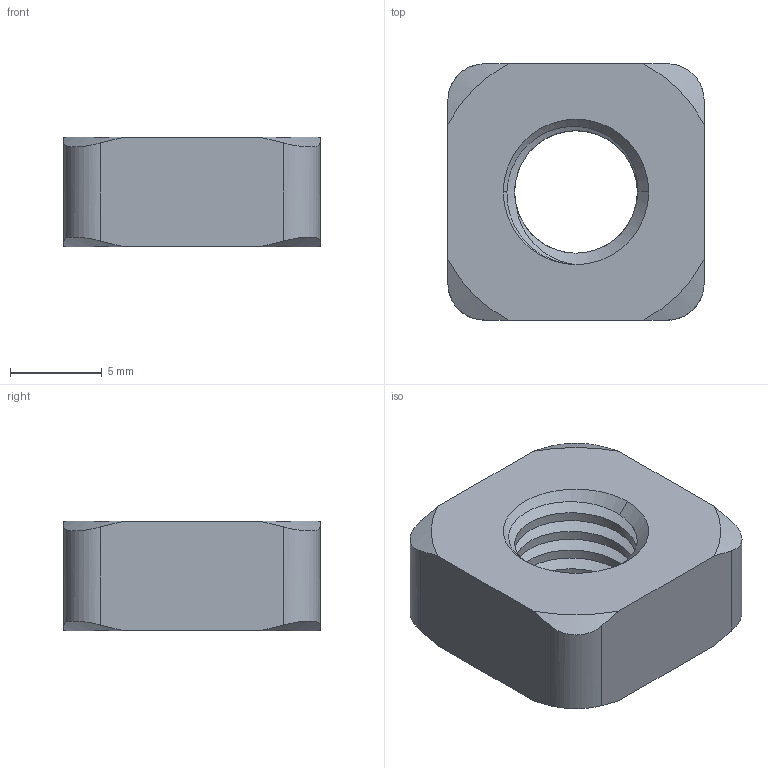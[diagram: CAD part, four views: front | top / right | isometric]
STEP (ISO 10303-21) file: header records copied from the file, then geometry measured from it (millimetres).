
FILE_DESCRIPTION (( 'STEP AP203' ), '1' );
FILE_NAME ('131-CE-EQN-40.STEP', '2015-07-09T08:58:24', ( '' ), ( '' ), 'SwSTEP 2.0', 'SolidWorks 2013', '' );
FILE_SCHEMA (( 'CONFIG_CONTROL_DESIGN' ));
Length unit declared in the file: millimetre
Products named in the file (1): 131-CE-EQN-40
Bounding box: 14 x 14 x 6 mm (x, y, z)
Volume: 908.2 mm3; surface area: 804.2 mm2
Topology: 1 solids, 1 shells, 37 faces, 100 edges, 65 vertices
Faces by surface type: cone 15, cylinder 14, plane 6, bspline 2
Entity records: 2321 total; most frequent: CARTESIAN_POINT 1424, ORIENTED_EDGE 200, DIRECTION 136, EDGE_CURVE 100, VERTEX_POINT 65, AXIS2_PLACEMENT_3D 53, EDGE_LOOP 39, FACE_OUTER_BOUND 37
